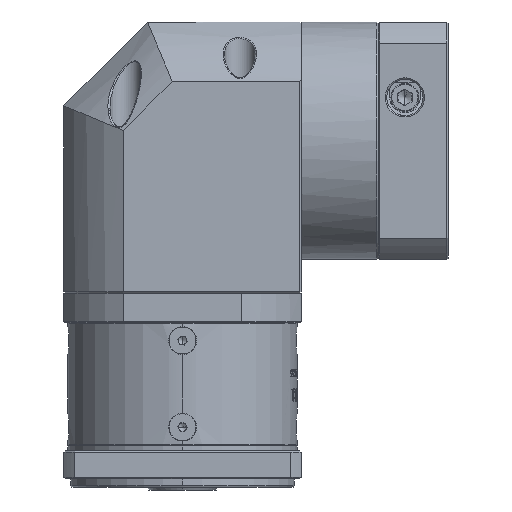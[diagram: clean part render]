
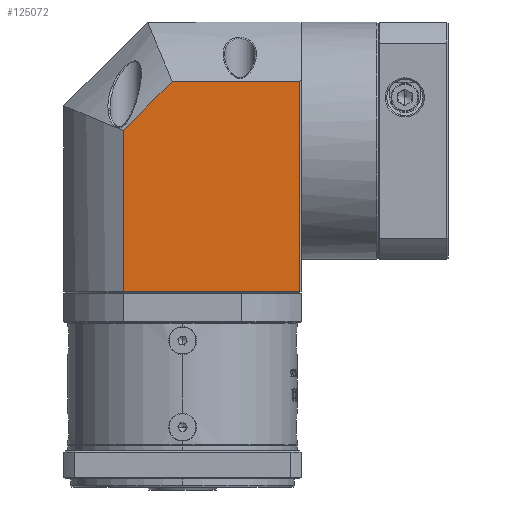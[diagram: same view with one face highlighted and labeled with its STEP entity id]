
A CAD part, front view. The second image highlights one B-rep face of the part: STEP entity #125072.
In plain terms, the highlighted planar face has unit normal (0, -1, 0).
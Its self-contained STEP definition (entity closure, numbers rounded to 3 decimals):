
#3486 = EDGE_CURVE ( 'NONE', #161905, #16933, #68244, .T. ) ;
#3936 = DIRECTION ( 'NONE',  ( 0., 0., -1. ) ) ;
#5947 = ORIENTED_EDGE ( 'NONE', *, *, #80196, .F. ) ;
#8236 = LINE ( 'NONE', #139782, #79914 ) ;
#16933 = VERTEX_POINT ( 'NONE', #26281 ) ;
#22842 = VERTEX_POINT ( 'NONE', #34379 ) ;
#26281 = CARTESIAN_POINT ( 'NONE',  ( 79.294, 97.608, -56.436 ) ) ;
#27103 = LINE ( 'NONE', #68379, #62896 ) ;
#34379 = CARTESIAN_POINT ( 'NONE',  ( 16.08, 97.608, 1.247 ) ) ;
#39782 = EDGE_CURVE ( 'NONE', #22842, #155020, #27103, .T. ) ;
#55713 = CARTESIAN_POINT ( 'NONE',  ( 16.08, 97.608, 40.064 ) ) ;
#59344 = DIRECTION ( 'NONE',  ( 0., 1., 0. ) ) ;
#60922 = CARTESIAN_POINT ( 'NONE',  ( 79.794, 97.608, 18.777 ) ) ;
#61626 = ORIENTED_EDGE ( 'NONE', *, *, #141374, .F. ) ;
#62896 = VECTOR ( 'NONE', #163713, 1000. ) ;
#63245 = LINE ( 'NONE', #60922, #94925 ) ;
#63468 = DIRECTION ( 'NONE',  ( 1., 0., 0. ) ) ;
#64019 = VECTOR ( 'NONE', #63468, 1000. ) ;
#64836 = CARTESIAN_POINT ( 'NONE',  ( 79.294, 97.608, 18.777 ) ) ;
#68244 = LINE ( 'NONE', #157620, #64019 ) ;
#68379 = CARTESIAN_POINT ( 'NONE',  ( 16.08, 97.608, 1.247 ) ) ;
#74571 = EDGE_CURVE ( 'NONE', #105144, #16933, #8236, .T. ) ;
#79914 = VECTOR ( 'NONE', #3936, 1000. ) ;
#80167 = CARTESIAN_POINT ( 'NONE',  ( 33.611, 97.608, 18.777 ) ) ;
#80196 = EDGE_CURVE ( 'NONE', #155020, #105144, #63245, .T. ) ;
#82878 = DIRECTION ( 'NONE',  ( 0., 0., 1. ) ) ;
#85952 = PLANE ( 'NONE',  #96726 ) ;
#87173 = VECTOR ( 'NONE', #82878, 1000. ) ;
#94001 = FACE_OUTER_BOUND ( 'NONE', #98513, .T. ) ;
#94925 = VECTOR ( 'NONE', #101559, 1000. ) ;
#96726 = AXIS2_PLACEMENT_3D ( 'NONE', #139930, #59344, #153510 ) ;
#98513 = EDGE_LOOP ( 'NONE', ( #173395, #154399, #5947, #149470, #61626 ) ) ;
#101559 = DIRECTION ( 'NONE',  ( 1., 0., 0. ) ) ;
#105144 = VERTEX_POINT ( 'NONE', #64836 ) ;
#125072 = ADVANCED_FACE ( 'NONE', ( #94001 ), #85952, .F. ) ;
#139782 = CARTESIAN_POINT ( 'NONE',  ( 79.294, 97.608, 40.064 ) ) ;
#139930 = CARTESIAN_POINT ( 'NONE',  ( 79.794, 97.608, 40.064 ) ) ;
#141374 = EDGE_CURVE ( 'NONE', #161905, #22842, #158687, .T. ) ;
#149470 = ORIENTED_EDGE ( 'NONE', *, *, #39782, .F. ) ;
#153510 = DIRECTION ( 'NONE',  ( -1., 0., 0. ) ) ;
#154399 = ORIENTED_EDGE ( 'NONE', *, *, #74571, .F. ) ;
#155020 = VERTEX_POINT ( 'NONE', #80167 ) ;
#157620 = CARTESIAN_POINT ( 'NONE',  ( 79.794, 97.608, -56.436 ) ) ;
#158687 = LINE ( 'NONE', #55713, #87173 ) ;
#161905 = VERTEX_POINT ( 'NONE', #173793 ) ;
#163713 = DIRECTION ( 'NONE',  ( 0.707, 0., 0.707 ) ) ;
#173395 = ORIENTED_EDGE ( 'NONE', *, *, #3486, .T. ) ;
#173793 = CARTESIAN_POINT ( 'NONE',  ( 16.08, 97.608, -56.436 ) ) ;
